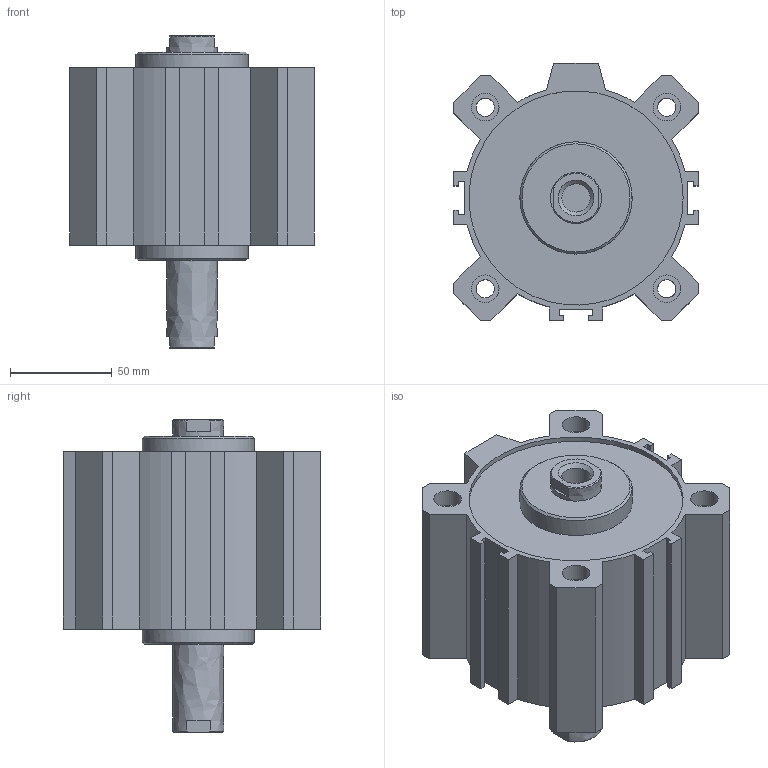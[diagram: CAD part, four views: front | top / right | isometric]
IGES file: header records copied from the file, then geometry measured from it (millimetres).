
Global section: file name: 1514_100_0035; native system: Autodesk Inventor 2014; preprocessor: unknown; author: A. Manieri; date: 20160824.163202; units: millimetre
Bounding box: 120 x 126 x 153 mm (x, y, z)
Volume: 786327 mm3; surface area: 161677.6 mm2
Topology: 2 solids, 2 shells, 132 faces, 346 edges, 238 vertices
Faces by surface type: bspline 132
